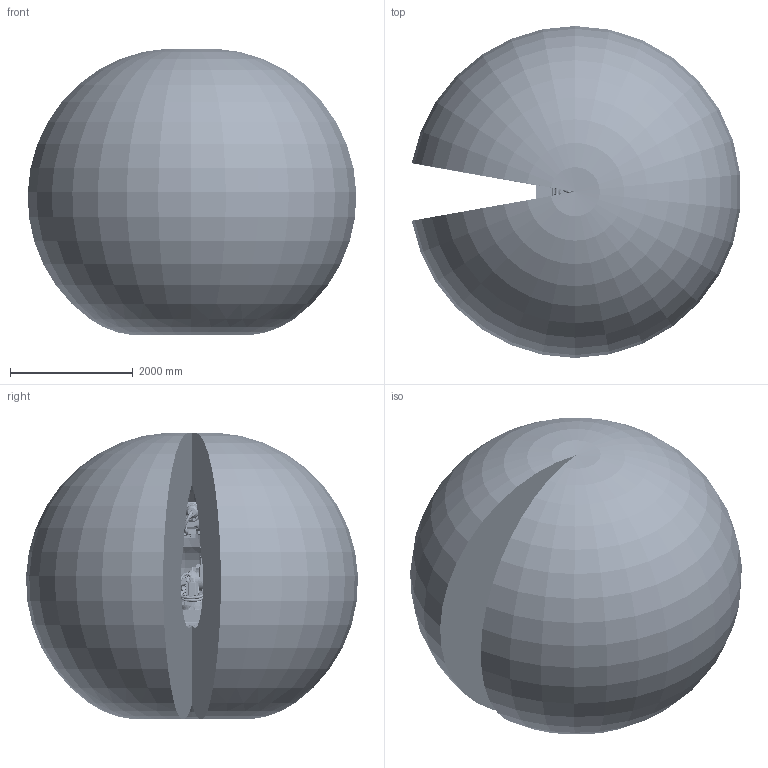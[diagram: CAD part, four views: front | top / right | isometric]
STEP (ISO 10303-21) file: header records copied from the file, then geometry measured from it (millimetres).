
FILE_DESCRIPTION (( 'STEP AP214' ), '1' );
FILE_NAME ('IRB5710-MH3_90kg-270_OC_02_ASM.step', '2025-07-08T11:34:46', ( '' ), ( '' ), 'SwSTEP 2.0', 'SolidWorks 2024', '' );
FILE_SCHEMA (( 'AUTOMOTIVE_DESIGN' ));
Length unit declared in the file: millimetre
Products named in the file (17): IRB5710-MH3_90kg-270_OmniCore_rev00_LINK01_CABLE; IRB5710-MH3_90kg-270_OmniCore_rev00_LINK02_CAD; IRB5710-MH3_90kg-270_OmniCore_rev01_LINK03_CAD; IRB5710-MH3_90kg-270_OmniCore_rev00_LINK05_CAD; IRB5710-MH3_90kg-270_OC_01_Working-space; IRB5710-MH3_90kg-270_OmniCore_rev00_LINK01m_CABLE; IRB5710-MH3_90kg-270_OmniCore_rev00_LINK02m_CABLE; IRB5710-MH3_90kg-270_OmniCore_rev00_LINK03m_CABLE; IRB5710-MH3_90kg-270_OmniCore_rev01_LINK04_CABLE; IRB5710-MH3_90kg-270_OmniCore_rev00_LINK04_CAD; IRB5710-MH3_90kg-270_OmniCore_rev00_LINK06_CAD; IRB5710-MH3_90kg-270_OC_01_LINK03a_CABLE; IRB5710-MH3_90kg-270_OmniCore_rev00_LINK01_CAD; IRB5710-MH3_90kg-270_OC_02_LINK03b_CABLE; IRB5710-MH3_90kg-270_OC_01_BASE_CAD; IRB5710-MH3_90kg-270_OC_02_ASM; IRB5710-MH3_90kg-270_OmniCore_rev00_LINK02_CABLE
Assembly tree (16 placements, depth 2):
  IRB5710-MH3_90kg-270_OC_02_ASM
    IRB5710-MH3_90kg-270_OC_01_BASE_CAD
    IRB5710-MH3_90kg-270_OmniCore_rev00_LINK01_CAD
    IRB5710-MH3_90kg-270_OmniCore_rev00_LINK02_CAD
    IRB5710-MH3_90kg-270_OmniCore_rev01_LINK03_CAD
    IRB5710-MH3_90kg-270_OmniCore_rev00_LINK04_CAD
    IRB5710-MH3_90kg-270_OmniCore_rev00_LINK05_CAD
    IRB5710-MH3_90kg-270_OmniCore_rev00_LINK01m_CABLE
    IRB5710-MH3_90kg-270_OmniCore_rev00_LINK02m_CABLE
    IRB5710-MH3_90kg-270_OmniCore_rev00_LINK03m_CABLE
    IRB5710-MH3_90kg-270_OC_01_Working-space
    IRB5710-MH3_90kg-270_OmniCore_rev00_LINK06_CAD
    IRB5710-MH3_90kg-270_OC_01_LINK03a_CABLE
    IRB5710-MH3_90kg-270_OmniCore_rev00_LINK01_CABLE
    IRB5710-MH3_90kg-270_OmniCore_rev00_LINK02_CABLE
    IRB5710-MH3_90kg-270_OC_02_LINK03b_CABLE
    IRB5710-MH3_90kg-270_OmniCore_rev01_LINK04_CABLE
Bounding box: 5343.74 x 5399.54 x 4662.82 mm (x, y, z)
Volume: 67954242417.1 mm3; surface area: 123141714.6 mm2
Topology: 22 solids, 80 shells, 7723 faces, 19471 edges, 12411 vertices
Faces by surface type: plane 3557, cylinder 2262, cone 919, bspline 615, torus 296, sphere 74
Entity records: 362684 total; most frequent: CARTESIAN_POINT 147598, ORIENTED_EDGE 38462, DIRECTION 36266, EDGE_CURVE 19231, AXIS2_PLACEMENT_3D 13313, VERTEX_POINT 12403, VECTOR 9640, LINE 9640
